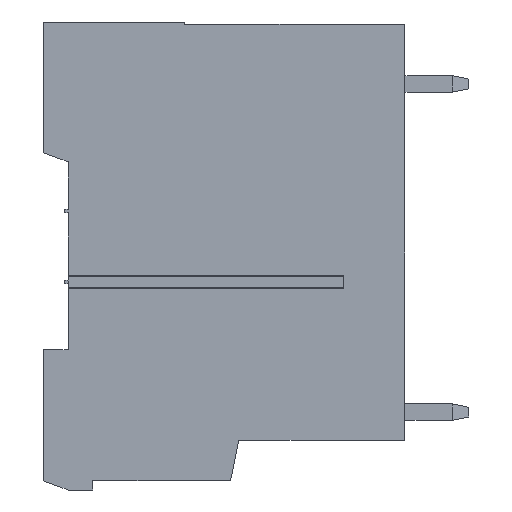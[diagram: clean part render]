
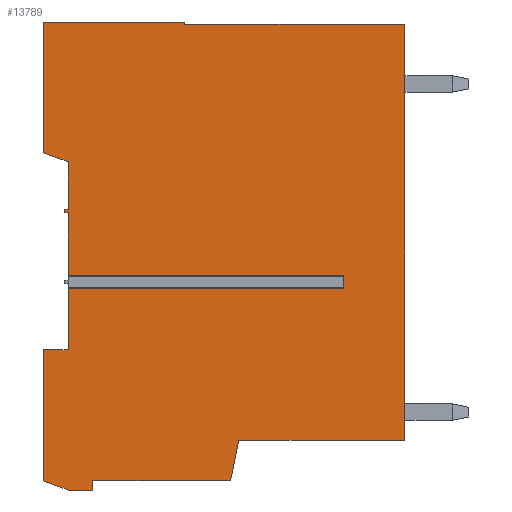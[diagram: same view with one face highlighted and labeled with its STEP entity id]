
A CAD part, left-side view. The second image highlights one B-rep face of the part: STEP entity #13789.
In plain terms, the highlighted planar face has unit normal (-1, 0, 0).
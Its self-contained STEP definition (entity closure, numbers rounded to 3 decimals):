
#250=DIRECTION('',(0.,0.,-1.));
#251=VECTOR('',#250,25.35);
#252=CARTESIAN_POINT('',(0.,0.,-0.15));
#253=LINE('',#252,#251);
#310=DIRECTION('',(0.,-1.,0.));
#311=VECTOR('',#310,13.4);
#312=CARTESIAN_POINT('',(0.,13.4,-0.15));
#313=LINE('',#312,#311);
#2853=DIRECTION('',(0.,0.,1.));
#2854=VECTOR('',#2853,7.97);
#2855=CARTESIAN_POINT('',(0.,22.,-7.97));
#2856=LINE('',#2855,#2854);
#3517=DIRECTION('',(0.,-0.939,-0.344));
#3518=VECTOR('',#3517,1.598);
#3519=CARTESIAN_POINT('',(0.,22.,-7.97));
#3520=LINE('',#3519,#3518);
#3521=DIRECTION('',(0.,-0.198,0.98));
#3522=VECTOR('',#3521,2.52);
#3523=CARTESIAN_POINT('',(0.,10.6,-27.97));
#3524=LINE('',#3523,#3522);
#3525=DIRECTION('',(0.,-0.939,-0.344));
#3526=VECTOR('',#3525,1.598);
#3527=CARTESIAN_POINT('',(0.,22.,-27.97));
#3528=LINE('',#3527,#3526);
#3529=DIRECTION('',(0.,-1.,0.));
#3530=VECTOR('',#3529,16.8);
#3531=CARTESIAN_POINT('',(0.,20.5,-16.25));
#3532=LINE('',#3531,#3530);
#3542=DIRECTION('',(0.,0.,1.));
#3543=VECTOR('',#3542,0.8);
#3544=CARTESIAN_POINT('',(0.,3.7,-16.25));
#3545=LINE('',#3544,#3543);
#3569=DIRECTION('',(0.,1.,0.));
#3570=VECTOR('',#3569,16.8);
#3571=CARTESIAN_POINT('',(0.,3.7,-15.45));
#3572=LINE('',#3571,#3570);
#3613=DIRECTION('',(0.,0.,1.));
#3614=VECTOR('',#3613,3.83);
#3615=CARTESIAN_POINT('',(0.,20.5,-15.45));
#3616=LINE('',#3615,#3614);
#3645=DIRECTION('',(0.,0.,1.));
#3646=VECTOR('',#3645,3.72);
#3647=CARTESIAN_POINT('',(0.,20.5,-19.97));
#3648=LINE('',#3647,#3646);
#3661=DIRECTION('',(0.,-1.,0.));
#3662=VECTOR('',#3661,1.5);
#3663=CARTESIAN_POINT('',(0.,22.,-19.97));
#3664=LINE('',#3663,#3662);
#3686=DIRECTION('',(0.,0.,1.));
#3687=VECTOR('',#3686,8.);
#3688=CARTESIAN_POINT('',(0.,22.,-27.97));
#3689=LINE('',#3688,#3687);
#3807=DIRECTION('',(0.,1.,0.));
#3808=VECTOR('',#3807,1.5);
#3809=CARTESIAN_POINT('',(0.,19.,-28.52));
#3810=LINE('',#3809,#3808);
#3819=DIRECTION('',(0.,0.,-1.));
#3820=VECTOR('',#3819,0.55);
#3821=CARTESIAN_POINT('',(0.,19.,-27.97));
#3822=LINE('',#3821,#3820);
#3831=DIRECTION('',(0.,1.,0.));
#3832=VECTOR('',#3831,8.4);
#3833=CARTESIAN_POINT('',(0.,10.6,-27.97));
#3834=LINE('',#3833,#3832);
#3851=DIRECTION('',(0.,1.,0.));
#3852=VECTOR('',#3851,10.1);
#3853=CARTESIAN_POINT('',(0.,0.,-25.5));
#3854=LINE('',#3853,#3852);
#4035=DIRECTION('',(0.,0.,-1.));
#4036=VECTOR('',#4035,0.15);
#4037=CARTESIAN_POINT('',(0.,13.4,0.));
#4038=LINE('',#4037,#4036);
#4051=DIRECTION('',(0.,-1.,0.));
#4052=VECTOR('',#4051,8.6);
#4053=CARTESIAN_POINT('',(0.,22.,0.));
#4054=LINE('',#4053,#4052);
#4083=DIRECTION('',(0.,-1.,0.));
#4084=VECTOR('',#4083,0.2);
#4085=CARTESIAN_POINT('',(0.,20.7,-11.42));
#4086=LINE('',#4085,#4084);
#4095=DIRECTION('',(0.,0.,1.));
#4096=VECTOR('',#4095,0.2);
#4097=CARTESIAN_POINT('',(0.,20.7,-11.62));
#4098=LINE('',#4097,#4096);
#4111=DIRECTION('',(0.,1.,0.));
#4112=VECTOR('',#4111,0.2);
#4113=CARTESIAN_POINT('',(0.,20.5,-11.62));
#4114=LINE('',#4113,#4112);
#4199=DIRECTION('',(0.,0.,1.));
#4200=VECTOR('',#4199,2.9);
#4201=CARTESIAN_POINT('',(0.,20.5,-11.42));
#4202=LINE('',#4201,#4200);
#6735=CARTESIAN_POINT('',(0.,3.7,-16.25));
#6736=CARTESIAN_POINT('',(0.,3.7,-15.45));
#6737=VERTEX_POINT('',#6735);
#6738=VERTEX_POINT('',#6736);
#6739=CARTESIAN_POINT('',(0.,20.5,-15.45));
#6740=VERTEX_POINT('',#6739);
#6741=CARTESIAN_POINT('',(0.,20.5,-11.62));
#6742=VERTEX_POINT('',#6741);
#6743=CARTESIAN_POINT('',(0.,20.7,-11.62));
#6744=VERTEX_POINT('',#6743);
#6745=CARTESIAN_POINT('',(0.,20.7,-11.42));
#6746=VERTEX_POINT('',#6745);
#6747=CARTESIAN_POINT('',(0.,20.5,-11.42));
#6748=VERTEX_POINT('',#6747);
#6749=CARTESIAN_POINT('',(0.,20.5,-8.52));
#6750=VERTEX_POINT('',#6749);
#6751=CARTESIAN_POINT('',(0.,22.,-7.97));
#6752=VERTEX_POINT('',#6751);
#6753=CARTESIAN_POINT('',(0.,22.,0.));
#6754=VERTEX_POINT('',#6753);
#6755=CARTESIAN_POINT('',(0.,13.4,0.));
#6756=VERTEX_POINT('',#6755);
#6757=CARTESIAN_POINT('',(0.,13.4,-0.15));
#6758=VERTEX_POINT('',#6757);
#6759=CARTESIAN_POINT('',(0.,0.,-0.15));
#6760=VERTEX_POINT('',#6759);
#6761=CARTESIAN_POINT('',(0.,0.,-25.5));
#6762=VERTEX_POINT('',#6761);
#6763=CARTESIAN_POINT('',(0.,10.1,-25.5));
#6764=VERTEX_POINT('',#6763);
#6765=CARTESIAN_POINT('',(0.,10.6,-27.97));
#6766=VERTEX_POINT('',#6765);
#6767=CARTESIAN_POINT('',(0.,19.,-27.97));
#6768=VERTEX_POINT('',#6767);
#6769=CARTESIAN_POINT('',(0.,19.,-28.52));
#6770=VERTEX_POINT('',#6769);
#6771=CARTESIAN_POINT('',(0.,20.5,-28.52));
#6772=VERTEX_POINT('',#6771);
#6773=CARTESIAN_POINT('',(0.,22.,-27.97));
#6774=VERTEX_POINT('',#6773);
#6775=CARTESIAN_POINT('',(0.,22.,-19.97));
#6776=VERTEX_POINT('',#6775);
#6777=CARTESIAN_POINT('',(0.,20.5,-19.97));
#6778=VERTEX_POINT('',#6777);
#6779=CARTESIAN_POINT('',(0.,20.5,-16.25));
#6780=VERTEX_POINT('',#6779);
#13740=CARTESIAN_POINT('',(0.,0.,0.));
#13741=DIRECTION('',(1.,0.,0.));
#13742=DIRECTION('',(0.,-1.,0.));
#13743=AXIS2_PLACEMENT_3D('',#13740,#13741,#13742);
#13744=PLANE('',#13743);
#13746=ORIENTED_EDGE('',*,*,#13745,.T.);
#13748=ORIENTED_EDGE('',*,*,#13747,.T.);
#13750=ORIENTED_EDGE('',*,*,#13749,.T.);
#13752=ORIENTED_EDGE('',*,*,#13751,.T.);
#13754=ORIENTED_EDGE('',*,*,#13753,.T.);
#13756=ORIENTED_EDGE('',*,*,#13755,.T.);
#13758=ORIENTED_EDGE('',*,*,#13757,.T.);
#13760=ORIENTED_EDGE('',*,*,#13759,.T.);
#13761=ORIENTED_EDGE('',*,*,#13733,.F.);
#13762=ORIENTED_EDGE('',*,*,#12787,.T.);
#13764=ORIENTED_EDGE('',*,*,#13763,.T.);
#13766=ORIENTED_EDGE('',*,*,#13765,.T.);
#13767=ORIENTED_EDGE('',*,*,#9426,.T.);
#13768=ORIENTED_EDGE('',*,*,#9318,.T.);
#13770=ORIENTED_EDGE('',*,*,#13769,.T.);
#13772=ORIENTED_EDGE('',*,*,#13771,.F.);
#13774=ORIENTED_EDGE('',*,*,#13773,.T.);
#13776=ORIENTED_EDGE('',*,*,#13775,.T.);
#13778=ORIENTED_EDGE('',*,*,#13777,.T.);
#13780=ORIENTED_EDGE('',*,*,#13779,.F.);
#13782=ORIENTED_EDGE('',*,*,#13781,.T.);
#13784=ORIENTED_EDGE('',*,*,#13783,.T.);
#13786=ORIENTED_EDGE('',*,*,#13785,.T.);
#13787=EDGE_LOOP('',(#13746,#13748,#13750,#13752,#13754,#13756,#13758,#13760,
#13761,#13762,#13764,#13766,#13767,#13768,#13770,#13772,#13774,#13776,#13778,
#13780,#13782,#13784,#13786));
#13788=FACE_OUTER_BOUND('',#13787,.F.);
#13789=ADVANCED_FACE('',(#13788),#13744,.F.);
#9318=EDGE_CURVE('',#6760,#6762,#253,.T.);
#9426=EDGE_CURVE('',#6758,#6760,#313,.T.);
#12787=EDGE_CURVE('',#6752,#6754,#2856,.T.);
#13733=EDGE_CURVE('',#6752,#6750,#3520,.T.);
#13745=EDGE_CURVE('',#6780,#6737,#3532,.T.);
#13747=EDGE_CURVE('',#6737,#6738,#3545,.T.);
#13749=EDGE_CURVE('',#6738,#6740,#3572,.T.);
#13751=EDGE_CURVE('',#6740,#6742,#3616,.T.);
#13753=EDGE_CURVE('',#6742,#6744,#4114,.T.);
#13755=EDGE_CURVE('',#6744,#6746,#4098,.T.);
#13757=EDGE_CURVE('',#6746,#6748,#4086,.T.);
#13759=EDGE_CURVE('',#6748,#6750,#4202,.T.);
#13763=EDGE_CURVE('',#6754,#6756,#4054,.T.);
#13765=EDGE_CURVE('',#6756,#6758,#4038,.T.);
#13769=EDGE_CURVE('',#6762,#6764,#3854,.T.);
#13771=EDGE_CURVE('',#6766,#6764,#3524,.T.);
#13773=EDGE_CURVE('',#6766,#6768,#3834,.T.);
#13775=EDGE_CURVE('',#6768,#6770,#3822,.T.);
#13777=EDGE_CURVE('',#6770,#6772,#3810,.T.);
#13779=EDGE_CURVE('',#6774,#6772,#3528,.T.);
#13781=EDGE_CURVE('',#6774,#6776,#3689,.T.);
#13783=EDGE_CURVE('',#6776,#6778,#3664,.T.);
#13785=EDGE_CURVE('',#6778,#6780,#3648,.T.);
